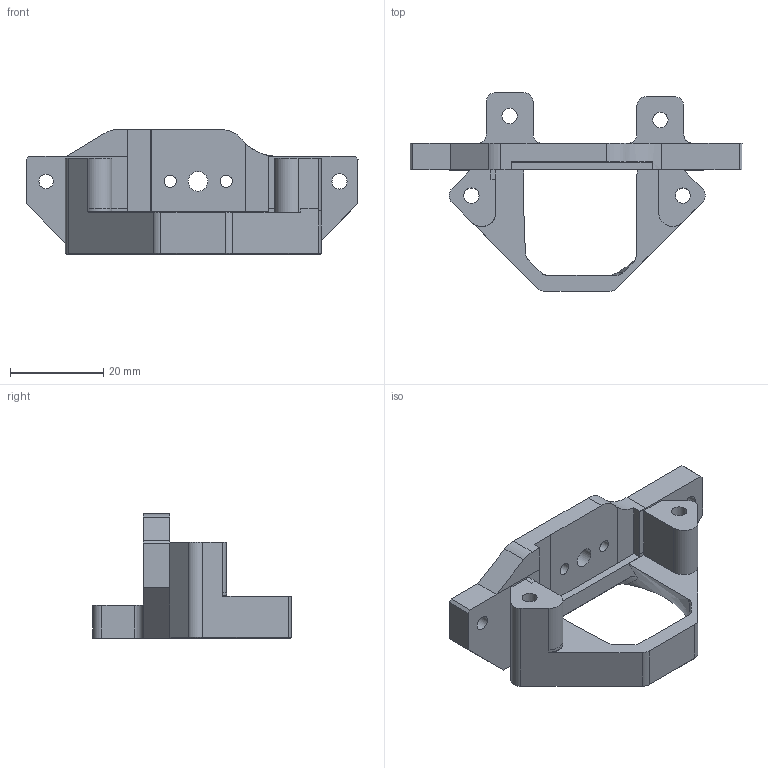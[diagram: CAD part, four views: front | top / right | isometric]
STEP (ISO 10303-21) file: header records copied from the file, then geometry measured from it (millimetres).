
FILE_DESCRIPTION(/* description */ (''),/* implementation_level */ '2;1');
FILE_NAME(/* name */ 'mount-tbg-lite-nf-crazy-plus-2.1.step',/* time_stamp */ '2023-01-19T18:47:13+01:00',/* author */ (''),/* organization */ (''),/* preprocessor_version */ 'ST-DEVELOPER v19.2',/* originating_system */ 'Autodesk Translation Framework v11.17.0.187',/* authorisation */ '');
FILE_SCHEMA (('AUTOMOTIVE_DESIGN { 1 0 10303 214 3 1 1 }'));
Length unit declared in the file: millimetre
Products named in the file (1): mount-tbg-lite-mosquito-2.1
Bounding box: 71.07 x 42.54 x 26.66 mm (x, y, z)
Volume: 13913.4 mm3; surface area: 8082.1 mm2
Topology: 1 solids, 1 shells, 115 faces, 324 edges, 212 vertices
Faces by surface type: plane 62, cylinder 32, bspline 13, cone 8
Full cylindrical faces by diameter (mm): 2.6 x2, 3.1 x1, 3.25 x4, 3.3 x2, 4.2 x1, 4.6 x2
Entity records: 4612 total; most frequent: CARTESIAN_POINT 1596, ORIENTED_EDGE 648, DIRECTION 573, EDGE_CURVE 324, VERTEX_POINT 212, LINE 205, VECTOR 205, AXIS2_PLACEMENT_3D 184
